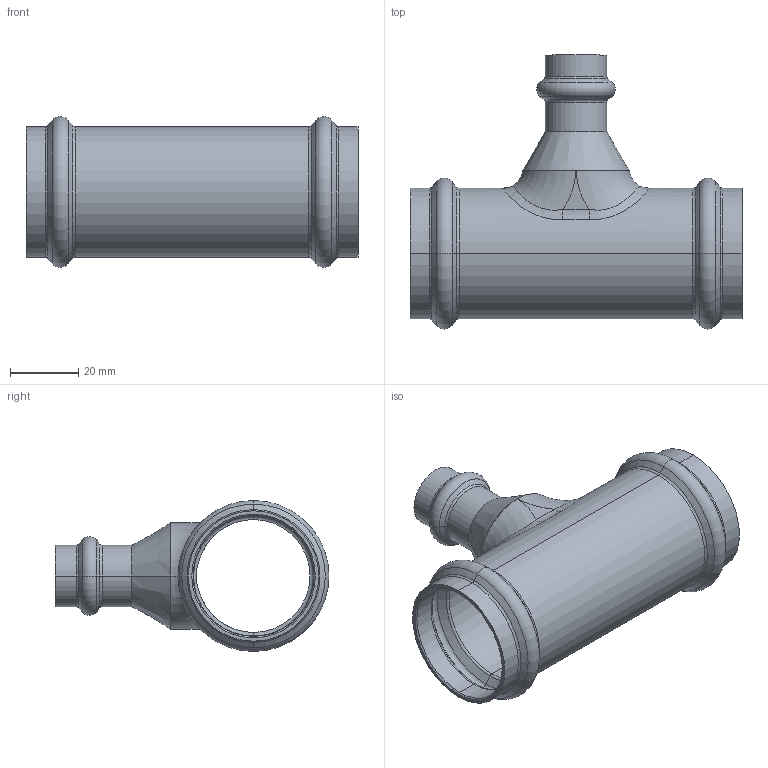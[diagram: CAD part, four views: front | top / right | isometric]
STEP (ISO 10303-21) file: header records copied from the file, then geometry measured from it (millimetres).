
FILE_DESCRIPTION (( 'STEP AP203' ), '1' );
FILE_NAME ('SP5130 Ø35-15-35.STEP', '2017-04-25T14:32:37', ( '' ), ( '' ), 'SwSTEP 2.0', 'SolidWorks 2016', '' );
FILE_SCHEMA (( 'CONFIG_CONTROL_DESIGN' ));
Length unit declared in the file: millimetre
Products named in the file (1): SP5130 Ø35-15-35
Bounding box: 97 x 80.05 x 44.1 mm (x, y, z)
Volume: 25813.1 mm3; surface area: 28754.6 mm2
Topology: 1 solids, 1 shells, 129 faces, 273 edges, 144 vertices
Faces by surface type: torus 47, cone 36, cylinder 33, plane 7, bspline 6
Entity records: 4971 total; most frequent: CARTESIAN_POINT 2117, DIRECTION 664, ORIENTED_EDGE 538, AXIS2_PLACEMENT_3D 297, EDGE_CURVE 269, CIRCLE 173, VERTEX_POINT 144, EDGE_LOOP 135
